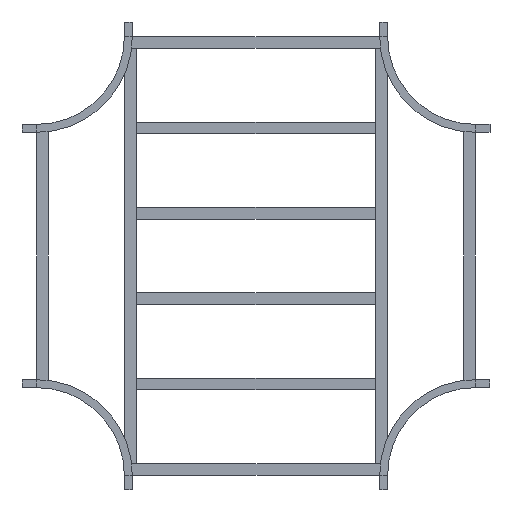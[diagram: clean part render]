
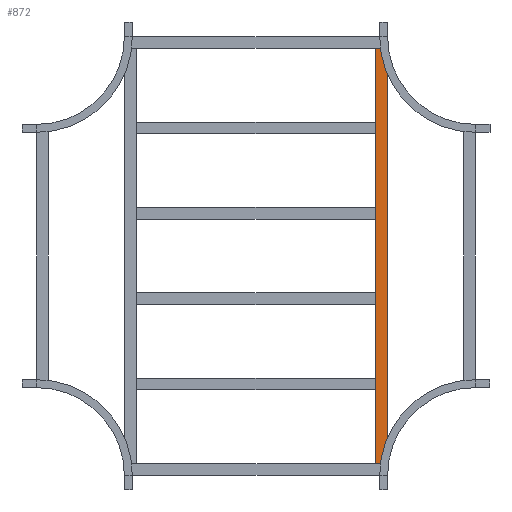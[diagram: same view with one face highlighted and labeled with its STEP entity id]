
A CAD part, front view. The second image highlights one B-rep face of the part: STEP entity #872.
In plain terms, the highlighted planar face has unit normal (0, -1, 0).
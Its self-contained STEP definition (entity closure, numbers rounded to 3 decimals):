
#8 = CARTESIAN_POINT ( 'NONE',  ( 709.5, 0., 20.25 ) ) ;
#62 = ORIENTED_EDGE ( 'NONE', *, *, #991, .F. ) ;
#110 = CARTESIAN_POINT ( 'NONE',  ( 709.5, 0., -20.25 ) ) ;
#132 = CARTESIAN_POINT ( 'NONE',  ( -709.5, 0., 20.25 ) ) ;
#225 = CARTESIAN_POINT ( 'NONE',  ( 709.5, 0., 20.25 ) ) ;
#236 = FACE_OUTER_BOUND ( 'NONE', #702, .T. ) ;
#250 = DIRECTION ( 'NONE',  ( 0., 0., -1. ) ) ;
#274 = CARTESIAN_POINT ( 'NONE',  ( 709.5, 0., 20.25 ) ) ;
#307 = LINE ( 'NONE', #752, #873 ) ;
#343 = DIRECTION ( 'NONE',  ( 0., 0., 1. ) ) ;
#455 = LINE ( 'NONE', #132, #1089 ) ;
#465 = VERTEX_POINT ( 'NONE', #1377 ) ;
#536 = ORIENTED_EDGE ( 'NONE', *, *, #715, .F. ) ;
#555 = VERTEX_POINT ( 'NONE', #225 ) ;
#594 = EDGE_CURVE ( 'NONE', #769, #465, #455, .T. ) ;
#648 = LINE ( 'NONE', #997, #981 ) ;
#656 = PLANE ( 'NONE',  #1130 ) ;
#696 = VECTOR ( 'NONE', #250, 1000. ) ;
#702 = EDGE_LOOP ( 'NONE', ( #964, #62, #536, #736 ) ) ;
#715 = EDGE_CURVE ( 'NONE', #555, #889, #1134, .T. ) ;
#736 = ORIENTED_EDGE ( 'NONE', *, *, #793, .T. ) ;
#752 = CARTESIAN_POINT ( 'NONE',  ( 709.5, 0., 20.25 ) ) ;
#769 = VERTEX_POINT ( 'NONE', #965 ) ;
#778 = DIRECTION ( 'NONE',  ( 0., 0., -1. ) ) ;
#793 = EDGE_CURVE ( 'NONE', #555, #769, #307, .T. ) ;
#872 = ADVANCED_FACE ( 'NONE', ( #236 ), #656, .F. ) ;
#873 = VECTOR ( 'NONE', #1258, 1000. ) ;
#889 = VERTEX_POINT ( 'NONE', #110 ) ;
#964 = ORIENTED_EDGE ( 'NONE', *, *, #594, .T. ) ;
#965 = CARTESIAN_POINT ( 'NONE',  ( -709.5, 0., 20.25 ) ) ;
#981 = VECTOR ( 'NONE', #1090, 1000. ) ;
#991 = EDGE_CURVE ( 'NONE', #889, #465, #648, .T. ) ;
#997 = CARTESIAN_POINT ( 'NONE',  ( 709.5, 0., -20.25 ) ) ;
#1089 = VECTOR ( 'NONE', #778, 1000. ) ;
#1090 = DIRECTION ( 'NONE',  ( -1., 0., 0. ) ) ;
#1130 = AXIS2_PLACEMENT_3D ( 'NONE', #8, #1206, #343 ) ;
#1134 = LINE ( 'NONE', #274, #696 ) ;
#1206 = DIRECTION ( 'NONE',  ( 0., 1., 0. ) ) ;
#1258 = DIRECTION ( 'NONE',  ( -1., 0., 0. ) ) ;
#1377 = CARTESIAN_POINT ( 'NONE',  ( -709.5, 0., -20.25 ) ) ;
